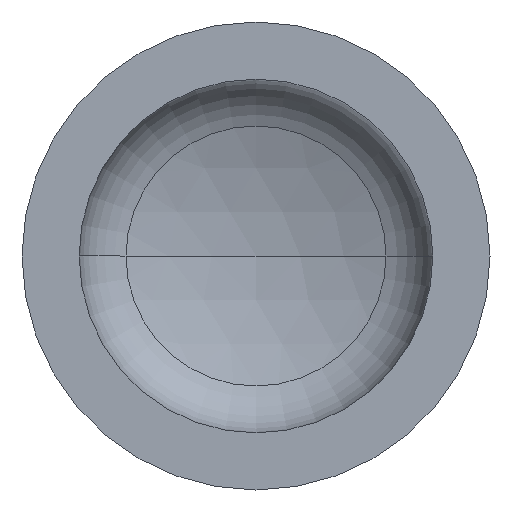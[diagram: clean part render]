
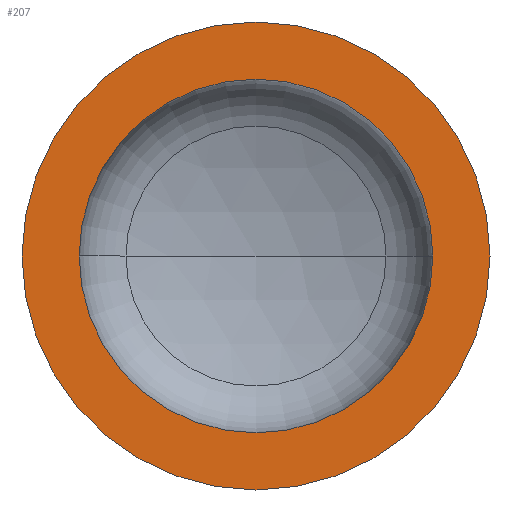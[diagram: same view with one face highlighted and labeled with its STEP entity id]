
A CAD part, front view. The second image highlights one B-rep face of the part: STEP entity #207.
In plain terms, the highlighted planar face has unit normal (0, -1, 0).
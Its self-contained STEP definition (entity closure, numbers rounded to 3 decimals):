
#17 = CIRCLE ( 'NONE', #18, 192. ) ;
#18 = AXIS2_PLACEMENT_3D ( 'NONE', #50, #170, #171 ) ;
#21 = EDGE_LOOP ( 'NONE', ( #125, #37 ) ) ;
#33 = VERTEX_POINT ( 'NONE', #249 ) ;
#35 = VERTEX_POINT ( 'NONE', #292 ) ;
#37 = ORIENTED_EDGE ( 'NONE', *, *, #134, .T. ) ;
#48 = AXIS2_PLACEMENT_3D ( 'NONE', #277, #183, #182 ) ;
#50 = CARTESIAN_POINT ( 'NONE',  ( 0., 0., 0. ) ) ;
#61 = EDGE_LOOP ( 'NONE', ( #62, #109 ) ) ;
#62 = ORIENTED_EDGE ( 'NONE', *, *, #139, .F. ) ;
#90 = AXIS2_PLACEMENT_3D ( 'NONE', #196, #197, #302 ) ;
#92 = AXIS2_PLACEMENT_3D ( 'NONE', #309, #300, #297 ) ;
#109 = ORIENTED_EDGE ( 'NONE', *, *, #348, .F. ) ;
#125 = ORIENTED_EDGE ( 'NONE', *, *, #378, .T. ) ;
#133 = VERTEX_POINT ( 'NONE', #334 ) ;
#134 = EDGE_CURVE ( 'NONE', #33, #133, #220, .T. ) ;
#139 = EDGE_CURVE ( 'NONE', #35, #179, #144, .T. ) ;
#144 = CIRCLE ( 'NONE', #90, 192. ) ;
#170 = DIRECTION ( 'NONE',  ( 0., -1., 0. ) ) ;
#171 = DIRECTION ( 'NONE',  ( 1., 0., 0. ) ) ;
#179 = VERTEX_POINT ( 'NONE', #259 ) ;
#180 = DIRECTION ( 'NONE',  ( 0., -1., 0. ) ) ;
#182 = DIRECTION ( 'NONE',  ( -1., 0., 0. ) ) ;
#183 = DIRECTION ( 'NONE',  ( 0., 1., 0. ) ) ;
#196 = CARTESIAN_POINT ( 'NONE',  ( 0., 0., 0. ) ) ;
#197 = DIRECTION ( 'NONE',  ( 0., -1., 0. ) ) ;
#207 = ADVANCED_FACE ( 'NONE', ( #380, #275 ), #242, .F. ) ;
#219 = AXIS2_PLACEMENT_3D ( 'NONE', #330, #180, #283 ) ;
#220 = CIRCLE ( 'NONE', #92, 254. ) ;
#241 = CIRCLE ( 'NONE', #219, 254. ) ;
#242 = PLANE ( 'NONE',  #48 ) ;
#249 = CARTESIAN_POINT ( 'NONE',  ( -254., 0., 0. ) ) ;
#259 = CARTESIAN_POINT ( 'NONE',  ( -192., 0., 0. ) ) ;
#275 = FACE_OUTER_BOUND ( 'NONE', #21, .T. ) ;
#277 = CARTESIAN_POINT ( 'NONE',  ( -254., 0., 0. ) ) ;
#283 = DIRECTION ( 'NONE',  ( 1., 0., 0. ) ) ;
#292 = CARTESIAN_POINT ( 'NONE',  ( 192., 0., 0. ) ) ;
#297 = DIRECTION ( 'NONE',  ( 1., 0., 0. ) ) ;
#300 = DIRECTION ( 'NONE',  ( 0., -1., 0. ) ) ;
#302 = DIRECTION ( 'NONE',  ( 1., 0., 0. ) ) ;
#309 = CARTESIAN_POINT ( 'NONE',  ( 0., 0., 0. ) ) ;
#330 = CARTESIAN_POINT ( 'NONE',  ( 0., 0., 0. ) ) ;
#334 = CARTESIAN_POINT ( 'NONE',  ( 254., 0., 0. ) ) ;
#348 = EDGE_CURVE ( 'NONE', #179, #35, #17, .T. ) ;
#378 = EDGE_CURVE ( 'NONE', #133, #33, #241, .T. ) ;
#380 = FACE_BOUND ( 'NONE', #61, .T. ) ;
